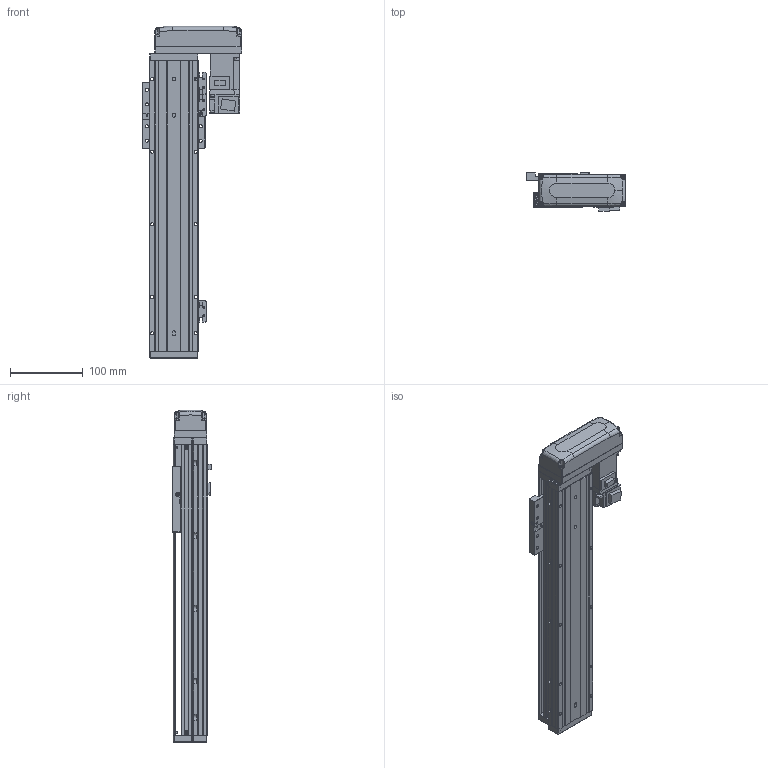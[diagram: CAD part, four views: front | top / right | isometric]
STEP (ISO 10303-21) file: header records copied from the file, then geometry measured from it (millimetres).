
FILE_DESCRIPTION (( 'STEP AP203' ), '1' );
FILE_NAME ('KTHAL60-250-BL-M10-C4L.step', '2022-03-19T08:37:35', ( '微软用户' ), ( '微软中国' ), 'SwSTEP 2.0', 'SolidWorks 2020', '' );
FILE_SCHEMA (( 'CONFIG_CONTROL_DESIGN' ));
Length unit declared in the file: millimetre
Products named in the file (18): CTHA60-016; EE_SX911P_R; HG-KR13（三菱）; KTHA60-001_400; CTHA60-017; CTHA60-015-2_CTHA60-015-2; KTHLA60-002; CTHA60-021; CTHA60-033; KTHA60-004; GBT 70.1-M4×16; GBT 70.1-M3×15; KTHA60-005; GBT77-2000M3-3; KTHAL60-250-BL-M10-C4L; GB¨uT 70.2-M3¡Á5_M3¡Á6; GBT 70.1-M3℅6; GBT 70.3-M3℅6
Assembly tree (51 placements, depth 2):
  KTHAL60-250-BL-M10-C4L
    KTHA60-001_400
    KTHLA60-002
    KTHA60-004
    KTHA60-005
    GB¨uT 70.2-M3¡Á5_M3¡Á6  x5
    GBT 70.3-M3℅6  x4
    EE_SX911P_R  x3
    CTHA60-017  x3
    CTHA60-021  x2
    GBT 70.1-M4×16  x10
    GBT77-2000M3-3  x6
    GBT 70.1-M3℅6  x6
    CTHA60-016
    HG-KR13（三菱）
    CTHA60-015-2_CTHA60-015-2
    CTHA60-033
    GBT 70.1-M3×15  x4
Bounding box: 137 x 53.3 x 457 mm (x, y, z)
Volume: 1124770 mm3; surface area: 277146.9 mm2
Topology: 54 solids, 54 shells, 2255 faces, 5331 edges, 3269 vertices
Faces by surface type: plane 1288, cylinder 547, cone 282, torus 98, bspline 26, sphere 14
Entity records: 38701 total; most frequent: CARTESIAN_POINT 7336, DIRECTION 6023, ORIENTED_EDGE 5806, EDGE_CURVE 2903, AXIS2_PLACEMENT_3D 2023, VECTOR 1977, LINE 1977, VERTEX_POINT 1818
